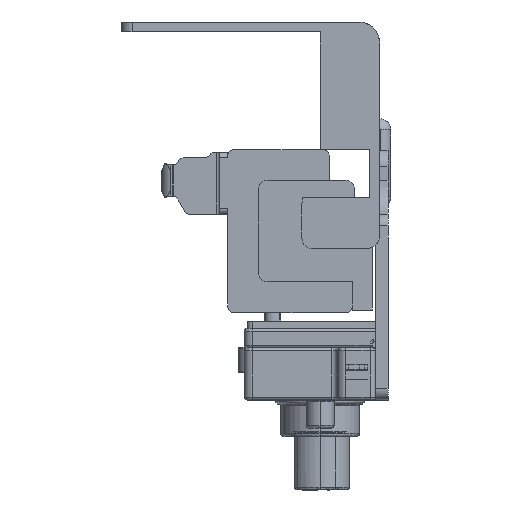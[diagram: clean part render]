
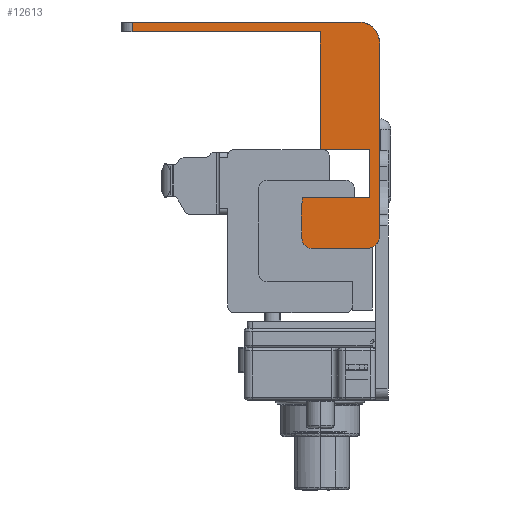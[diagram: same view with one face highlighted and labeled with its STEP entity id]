
A CAD part, left-side view. The second image highlights one B-rep face of the part: STEP entity #12613.
In plain terms, the highlighted planar face has unit normal (-1, 0, 0).
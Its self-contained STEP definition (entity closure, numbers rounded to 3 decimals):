
#37 = DIRECTION ( 'NONE',  ( 0., 0., -1. ) ) ;
#190 = DIRECTION ( 'NONE',  ( 0., 0., -1. ) ) ;
#371 = CARTESIAN_POINT ( 'NONE',  ( -180., 12.15, 0. ) ) ;
#428 = CARTESIAN_POINT ( 'NONE',  ( -180., 1.77, 17.6 ) ) ;
#433 = DIRECTION ( 'NONE',  ( 0., 0., 1. ) ) ;
#584 = DIRECTION ( 'NONE',  ( 0., 0., -1. ) ) ;
#883 = VECTOR ( 'NONE', #10261, 1000. ) ;
#1096 = CIRCLE ( 'NONE', #17747, 1.5 ) ;
#1360 = ORIENTED_EDGE ( 'NONE', *, *, #3268, .T. ) ;
#1790 = LINE ( 'NONE', #12271, #16551 ) ;
#1810 = DIRECTION ( 'NONE',  ( 0., 1., 0. ) ) ;
#1875 = DIRECTION ( 'NONE',  ( 0., -1., 0. ) ) ;
#1919 = VECTOR ( 'NONE', #16898, 1000. ) ;
#2038 = ORIENTED_EDGE ( 'NONE', *, *, #7965, .F. ) ;
#2094 = VERTEX_POINT ( 'NONE', #371 ) ;
#2157 = VECTOR ( 'NONE', #14218, 1000. ) ;
#2213 = LINE ( 'NONE', #5092, #17001 ) ;
#2261 = DIRECTION ( 'NONE',  ( 0., 1., 0. ) ) ;
#2351 = ORIENTED_EDGE ( 'NONE', *, *, #12639, .F. ) ;
#2367 = LINE ( 'NONE', #17496, #5740 ) ;
#2423 = CARTESIAN_POINT ( 'NONE',  ( -180., 12.313, 1.677 ) ) ;
#2456 = VERTEX_POINT ( 'NONE', #6894 ) ;
#2499 = VERTEX_POINT ( 'NONE', #17033 ) ;
#2516 = EDGE_CURVE ( 'NONE', #12658, #6355, #14031, .T. ) ;
#2559 = CARTESIAN_POINT ( 'NONE',  ( -180., 23., 9. ) ) ;
#3268 = EDGE_CURVE ( 'NONE', #6730, #5253, #14229, .T. ) ;
#3879 = DIRECTION ( 'NONE',  ( 0., 0., -1. ) ) ;
#3983 = AXIS2_PLACEMENT_3D ( 'NONE', #5885, #15896, #7307 ) ;
#4353 = CIRCLE ( 'NONE', #11101, 2. ) ;
#4772 = CARTESIAN_POINT ( 'NONE',  ( -180., -39.08, 5.009 ) ) ;
#4874 = DIRECTION ( 'NONE',  ( 0., 0., -1. ) ) ;
#5036 = ORIENTED_EDGE ( 'NONE', *, *, #14027, .T. ) ;
#5079 = CARTESIAN_POINT ( 'NONE',  ( -180., 13.49, 0.748 ) ) ;
#5092 = CARTESIAN_POINT ( 'NONE',  ( -180., 1.77, 20.15 ) ) ;
#5253 = VERTEX_POINT ( 'NONE', #12109 ) ;
#5495 = EDGE_LOOP ( 'NONE', ( #17040, #5036, #2038, #7102, #15448, #13304, #1360, #10821, #11898, #7330, #9345, #15128, #2351, #15244 ) ) ;
#5740 = VECTOR ( 'NONE', #1810, 1000. ) ;
#5885 = CARTESIAN_POINT ( 'NONE',  ( -180., 2.27, 2.27 ) ) ;
#5943 = VERTEX_POINT ( 'NONE', #5079 ) ;
#6177 = EDGE_CURVE ( 'NONE', #9638, #2456, #8329, .T. ) ;
#6186 = DIRECTION ( 'NONE',  ( 0., 0., -1. ) ) ;
#6279 = EDGE_CURVE ( 'NONE', #15036, #5253, #10808, .T. ) ;
#6355 = VERTEX_POINT ( 'NONE', #9346 ) ;
#6730 = VERTEX_POINT ( 'NONE', #13386 ) ;
#6894 = CARTESIAN_POINT ( 'NONE',  ( -180., 2.27, 0. ) ) ;
#7102 = ORIENTED_EDGE ( 'NONE', *, *, #7793, .F. ) ;
#7307 = DIRECTION ( 'NONE',  ( 0., 0., -1. ) ) ;
#7330 = ORIENTED_EDGE ( 'NONE', *, *, #9552, .F. ) ;
#7793 = EDGE_CURVE ( 'NONE', #8732, #14220, #15449, .T. ) ;
#7813 = VECTOR ( 'NONE', #433, 1000. ) ;
#7938 = EDGE_CURVE ( 'NONE', #6730, #9899, #2213, .T. ) ;
#7965 = EDGE_CURVE ( 'NONE', #14220, #2499, #1790, .T. ) ;
#8184 = CARTESIAN_POINT ( 'NONE',  ( -180., 0., 2.27 ) ) ;
#8329 = CIRCLE ( 'NONE', #3983, 2.27 ) ;
#8477 = LINE ( 'NONE', #8808, #883 ) ;
#8588 = DIRECTION ( 'NONE',  ( 1., 0., 0. ) ) ;
#8732 = VERTEX_POINT ( 'NONE', #18159 ) ;
#8737 = DIRECTION ( 'NONE',  ( 1., 0., 0. ) ) ;
#8808 = CARTESIAN_POINT ( 'NONE',  ( -180., 0., 20.15 ) ) ;
#9149 = DIRECTION ( 'NONE',  ( 1., 0., 0. ) ) ;
#9345 = ORIENTED_EDGE ( 'NONE', *, *, #18207, .F. ) ;
#9346 = CARTESIAN_POINT ( 'NONE',  ( -180., 3.77, 40.3 ) ) ;
#9487 = EDGE_CURVE ( 'NONE', #8732, #9899, #12571, .T. ) ;
#9524 = VECTOR ( 'NONE', #4874, 1000. ) ;
#9552 = EDGE_CURVE ( 'NONE', #2094, #5943, #4353, .T. ) ;
#9638 = VERTEX_POINT ( 'NONE', #8184 ) ;
#9899 = VERTEX_POINT ( 'NONE', #428 ) ;
#9929 = CARTESIAN_POINT ( 'NONE',  ( -180., 23., 40.3 ) ) ;
#10261 = DIRECTION ( 'NONE',  ( 0., 0., -1. ) ) ;
#10510 = CARTESIAN_POINT ( 'NONE',  ( -180., 10.57, 36.53 ) ) ;
#10808 = CIRCLE ( 'NONE', #13552, 53. ) ;
#10821 = ORIENTED_EDGE ( 'NONE', *, *, #6279, .F. ) ;
#11101 = AXIS2_PLACEMENT_3D ( 'NONE', #17680, #9149, #584 ) ;
#11196 = CARTESIAN_POINT ( 'NONE',  ( -180., 13.809, 1.58 ) ) ;
#11604 = EDGE_CURVE ( 'NONE', #6355, #14469, #17024, .T. ) ;
#11693 = CARTESIAN_POINT ( 'NONE',  ( -180., 44., 40.3 ) ) ;
#11898 = ORIENTED_EDGE ( 'NONE', *, *, #16717, .F. ) ;
#11906 = CARTESIAN_POINT ( 'NONE',  ( -180., 10.57, 17.6 ) ) ;
#12109 = CARTESIAN_POINT ( 'NONE',  ( -180., 13.77, 9. ) ) ;
#12271 = CARTESIAN_POINT ( 'NONE',  ( -180., 23., 38.53 ) ) ;
#12306 = AXIS2_PLACEMENT_3D ( 'NONE', #12985, #8737, #190 ) ;
#12374 = VECTOR ( 'NONE', #1875, 1000. ) ;
#12429 = DIRECTION ( 'NONE',  ( 1., 0., 0. ) ) ;
#12571 = LINE ( 'NONE', #11906, #12374 ) ;
#12613 = ADVANCED_FACE ( 'NONE', ( #16537 ), #14425, .F. ) ;
#12639 = EDGE_CURVE ( 'NONE', #14469, #9638, #8477, .T. ) ;
#12658 = VERTEX_POINT ( 'NONE', #11693 ) ;
#12985 = CARTESIAN_POINT ( 'NONE',  ( -180., 23., 20.15 ) ) ;
#13304 = ORIENTED_EDGE ( 'NONE', *, *, #7938, .F. ) ;
#13386 = CARTESIAN_POINT ( 'NONE',  ( -180., 1.77, 9. ) ) ;
#13493 = AXIS2_PLACEMENT_3D ( 'NONE', #17157, #8588, #37 ) ;
#13552 = AXIS2_PLACEMENT_3D ( 'NONE', #4772, #14763, #6186 ) ;
#13820 = CARTESIAN_POINT ( 'NONE',  ( -180., 0., 36.53 ) ) ;
#14027 = EDGE_CURVE ( 'NONE', #12658, #2499, #17122, .T. ) ;
#14031 = LINE ( 'NONE', #9929, #2157 ) ;
#14218 = DIRECTION ( 'NONE',  ( 0., -1., 0. ) ) ;
#14220 = VERTEX_POINT ( 'NONE', #16795 ) ;
#14229 = LINE ( 'NONE', #2559, #1919 ) ;
#14425 = PLANE ( 'NONE',  #12306 ) ;
#14469 = VERTEX_POINT ( 'NONE', #13820 ) ;
#14763 = DIRECTION ( 'NONE',  ( 1., 0., 0. ) ) ;
#14872 = CARTESIAN_POINT ( 'NONE',  ( -180., 44., 38.53 ) ) ;
#15036 = VERTEX_POINT ( 'NONE', #11196 ) ;
#15128 = ORIENTED_EDGE ( 'NONE', *, *, #6177, .F. ) ;
#15244 = ORIENTED_EDGE ( 'NONE', *, *, #11604, .F. ) ;
#15448 = ORIENTED_EDGE ( 'NONE', *, *, #9487, .T. ) ;
#15449 = LINE ( 'NONE', #10510, #7813 ) ;
#15896 = DIRECTION ( 'NONE',  ( 1., 0., 0. ) ) ;
#16537 = FACE_OUTER_BOUND ( 'NONE', #5495, .T. ) ;
#16551 = VECTOR ( 'NONE', #2261, 1000. ) ;
#16717 = EDGE_CURVE ( 'NONE', #5943, #15036, #1096, .T. ) ;
#16795 = CARTESIAN_POINT ( 'NONE',  ( -180., 10.57, 38.53 ) ) ;
#16898 = DIRECTION ( 'NONE',  ( 0., 1., 0. ) ) ;
#17001 = VECTOR ( 'NONE', #17956, 1000. ) ;
#17024 = CIRCLE ( 'NONE', #13493, 3.77 ) ;
#17033 = CARTESIAN_POINT ( 'NONE',  ( -180., 44., 38.53 ) ) ;
#17040 = ORIENTED_EDGE ( 'NONE', *, *, #2516, .F. ) ;
#17122 = LINE ( 'NONE', #14872, #9524 ) ;
#17157 = CARTESIAN_POINT ( 'NONE',  ( -180., 3.77, 36.53 ) ) ;
#17496 = CARTESIAN_POINT ( 'NONE',  ( -180., 23., 0. ) ) ;
#17680 = CARTESIAN_POINT ( 'NONE',  ( -180., 11.92, 1.987 ) ) ;
#17747 = AXIS2_PLACEMENT_3D ( 'NONE', #2423, #12429, #3879 ) ;
#17956 = DIRECTION ( 'NONE',  ( 0., 0., 1. ) ) ;
#18159 = CARTESIAN_POINT ( 'NONE',  ( -180., 10.57, 17.6 ) ) ;
#18207 = EDGE_CURVE ( 'NONE', #2456, #2094, #2367, .T. ) ;
